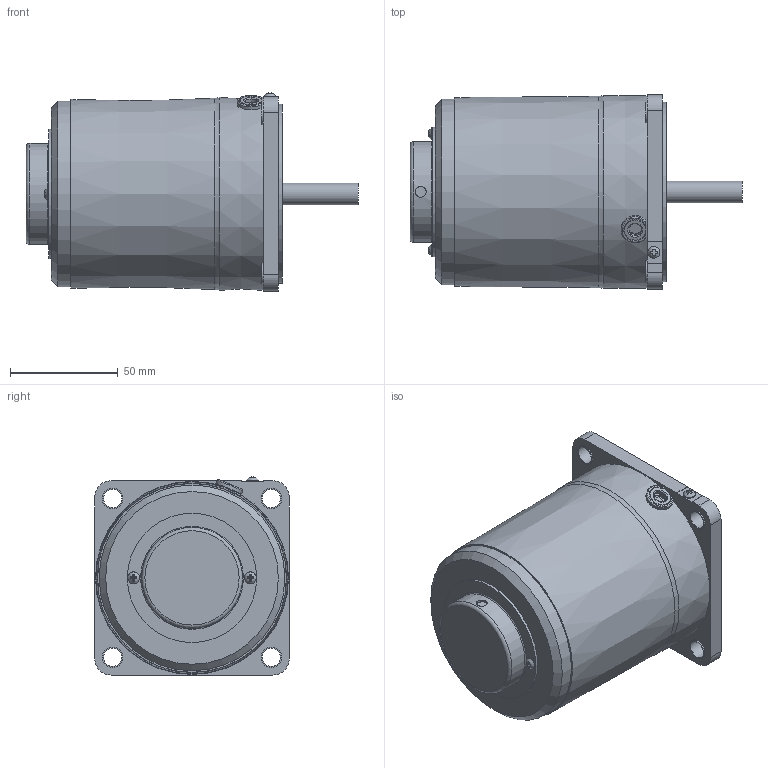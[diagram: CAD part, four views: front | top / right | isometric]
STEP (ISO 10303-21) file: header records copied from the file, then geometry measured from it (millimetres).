
FILE_DESCRIPTION(/* description */ (''),/* implementation_level */ '2;1');
FILE_NAME(/* name */ 'Y:\제품연구개발\3. 도면\3. 고객배포용\3D_홈페이지용\01-1 Standard AC SG Series\05-1 UNIT TYPE SPEED CONTROL MOTOR(V12)\SG9I40_-V12\SG9I40S_-V12.stp',/* time_stamp */ '2023-12-06T14:24:34+09:00',/* author */ ('shyi1037'),/* organization */ (''),/* preprocessor_version */ 'ST-DEVELOPER v18.1',/* originating_system */ 'Autodesk Inventor 2022',/* authorisation */ '');
FILE_SCHEMA (('AUTOMOTIVE_DESIGN { 1 0 10303 214 3 1 1 }'));
Length unit declared in the file: millimetre
Products named in the file (1): SG9I40S_-V12
Bounding box: 153.8 x 90 x 91.76 mm (x, y, z)
Volume: 669367.2 mm3; surface area: 52389.3 mm2
Topology: 1 solids, 6 shells, 163 faces, 396 edges, 262 vertices
Faces by surface type: plane 101, cylinder 45, torus 10, cone 4, bspline 3
Full cylindrical faces by diameter (mm): 3 x2, 3.5 x2, 5 x1, 5.6 x3, 6 x1, 8.5 x4, 9.5 x4, 10 x2, 40 x1, 44.7 x1, 46.7 x1, 47.7 x1, 59.9 x1, 83 x1, 86 x1
Entity records: 5296 total; most frequent: CARTESIAN_POINT 1250, ORIENTED_EDGE 792, DIRECTION 787, EDGE_CURVE 396, AXIS2_PLACEMENT_3D 285, VERTEX_POINT 262, LINE 217, VECTOR 217
